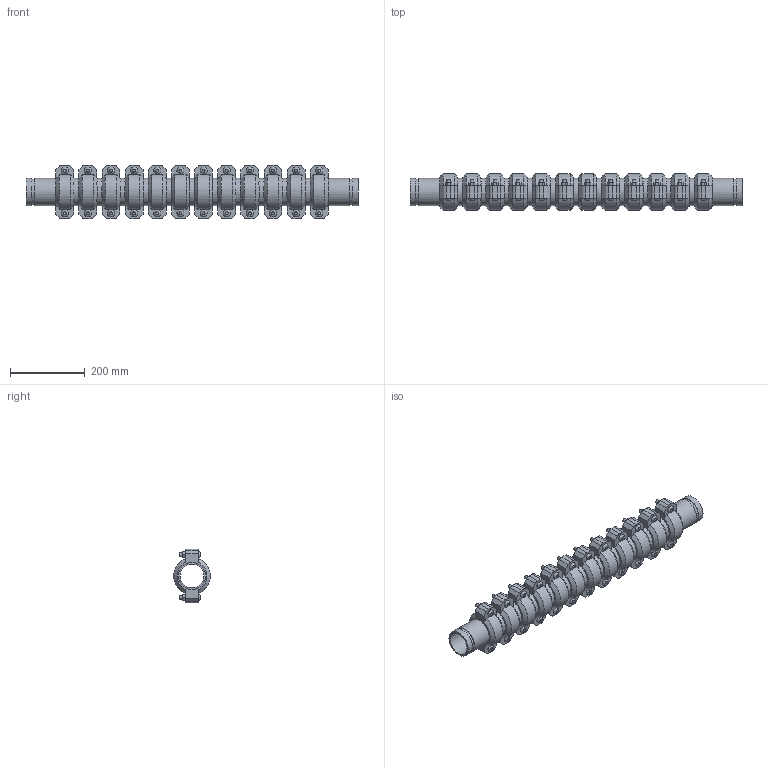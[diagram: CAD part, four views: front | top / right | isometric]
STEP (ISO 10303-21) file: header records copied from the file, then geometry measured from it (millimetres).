
FILE_DESCRIPTION(/* description */ ('VIC EXPANSION JOINT 12 COUPLINGS EXPANDED STYLE 155 (OGS)','CAx-IF Rec.Pracs.---Representation and Presentation of Product Manufacturing Information (PMI)---4.0---2014-10-13'),/* implementation_level */ '2;1');
FILE_NAME(/* name */ 'C:\Users\kkamble\AppData\Roaming\Autodesk\ApplicationPlugins\Victaulic.Temp\A519\Victaulic_IPS_Expansion Joint_Expanded_12 Couplings_Style 155 (OGS)_2.5 (65).stp',/* time_stamp */ '2021-06-26T23:54:11+02:00',/* author */ ('kkamble'),/* organization */ ('Victaulic'),/* preprocessor_version */ 'ST-DEVELOPER v17.2',/* originating_system */ 'Autodesk Inventor 2019',/* authorisation */ '');
FILE_SCHEMA (('AP242_MANAGED_MODEL_BASED_3D_ENGINEERING_MIM_LF { 1 0 10303 442 1 1 4 }'));
Length unit declared in the file: inch
Products named in the file (4): 155-02.5; Nipple-02.5; Nipple-02.5_1; 075-02.5
Assembly tree (25 placements, depth 2):
  155-02.5
    Nipple-02.5  x2
    Nipple-02.5_1  x11
    075-02.5  x12
Bounding box: 889.25 x 98.22 x 144.27 mm (x, y, z)
Volume: 3388199 mm3; surface area: 948733.7 mm2
Topology: 25 solids, 49 shells, 840 faces, 1986 edges, 1392 vertices
Faces by surface type: plane 510, cylinder 258, cone 48, bspline 24
Full cylindrical faces by diameter (mm): 9.525 x48, 11.43 x24, 63.475 x13, 66.675 x12, 69.088 x26, 73.025 x63
Entity records: 2913 total; most frequent: CARTESIAN_POINT 509, DIRECTION 493, ORIENTED_EDGE 386, AXIS2_PLACEMENT_3D 200, EDGE_CURVE 193, VERTEX_POINT 138, EDGE_LOOP 107, LINE 93
